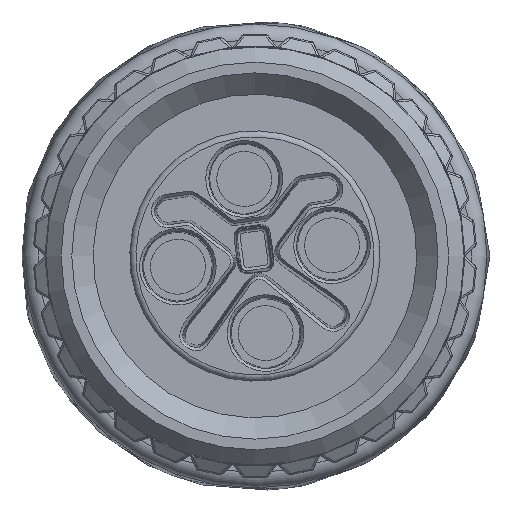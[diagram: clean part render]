
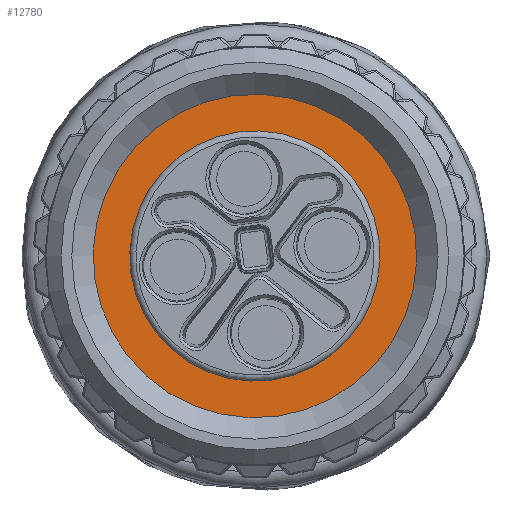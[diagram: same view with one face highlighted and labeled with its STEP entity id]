
A CAD part, left-side view. The second image highlights one B-rep face of the part: STEP entity #12780.
In plain terms, the highlighted planar face has unit normal (-1, 0, 0) as drawn and (1, 0, 0) by its records, which use the part's own axes.
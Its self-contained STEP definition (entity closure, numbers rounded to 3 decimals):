
#1395=CARTESIAN_POINT('',(-9.6,0.0,4.));
#1396=VERTEX_POINT('',#1395);
#1397=CARTESIAN_POINT('',(-9.6,0.0,0.0));
#1398=DIRECTION('',(1.0,0.0,0.0));
#1399=DIRECTION('',(0.0,0.0,1.0));
#1400=AXIS2_PLACEMENT_3D('',#1397,#1398,#1399);
#1401=CIRCLE('',#1400,4.);
#1402=EDGE_CURVE('',#1396,#1396,#1401,.T.);
#12754=CARTESIAN_POINT('',(-9.6,0.,-5.3));
#12755=VERTEX_POINT('',#12754);
#12756=CARTESIAN_POINT('',(-9.6,0.0,0.0));
#12757=DIRECTION('',(-1.0,0.0,0.0));
#12758=DIRECTION('',(0.0,0.0,1.0));
#12759=AXIS2_PLACEMENT_3D('',#12756,#12757,#12758);
#12760=CIRCLE('',#12759,5.3);
#12761=EDGE_CURVE('',#12755,#12755,#12760,.T.);
#12769=CARTESIAN_POINT('',(-9.6,0.0,0.0));
#12770=DIRECTION('',(-1.0,0.0,0.0));
#12771=DIRECTION('',(0.0,0.0,1.0));
#12772=AXIS2_PLACEMENT_3D('',#12769,#12770,#12771);
#12773=PLANE('',#12772);
#12774=ORIENTED_EDGE('',*,*,#12761,.F.);
#12775=EDGE_LOOP('',(#12774));
#12776=FACE_OUTER_BOUND('',#12775,.T.);
#12777=ORIENTED_EDGE('',*,*,#1402,.F.);
#12778=EDGE_LOOP('',(#12777));
#12779=FACE_BOUND('',#12778,.T.);
#12780=ADVANCED_FACE('',(#12776,#12779),#12773,.F.);
